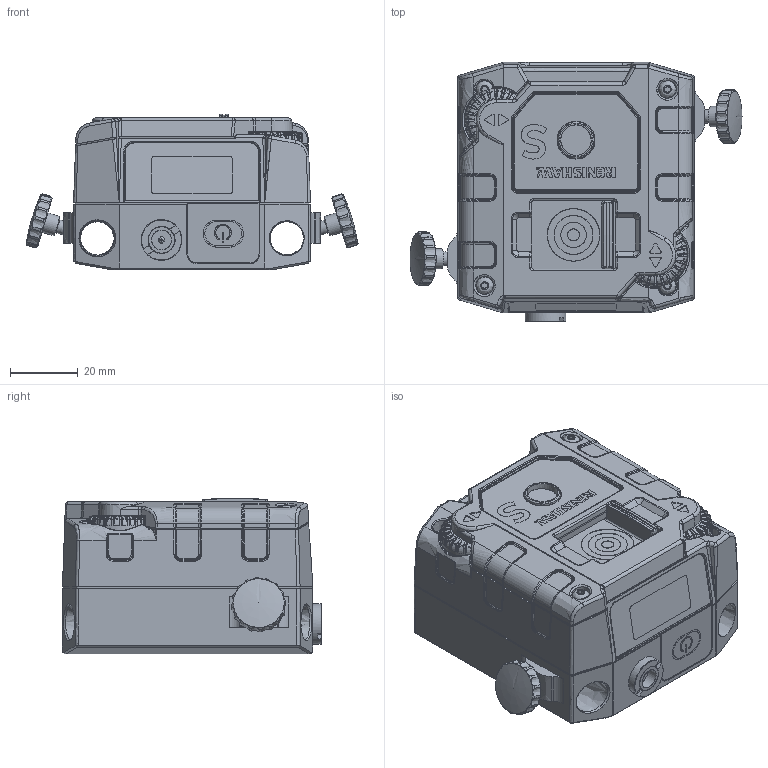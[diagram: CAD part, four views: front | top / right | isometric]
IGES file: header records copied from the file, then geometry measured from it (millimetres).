
Global section: file name: M-9971-0202-01-B_XK20 S UNIT _altrep_M-9971-0202-01-B-alt1_.igs; native system: NX V2312; preprocessor: SIEMENS PLM Software NX2312.8103; date: 20250902.082408; units: millimetre
Bounding box: 98.11 x 76.55 x 45.95 mm (x, y, z)
Surface area: 30493.2 mm2 (no closed solid volume)
Topology: 0 solids, 0 shells, 2260 faces, 12819 edges, 12795 vertices
Faces by surface type: bspline 2259, offset 1
